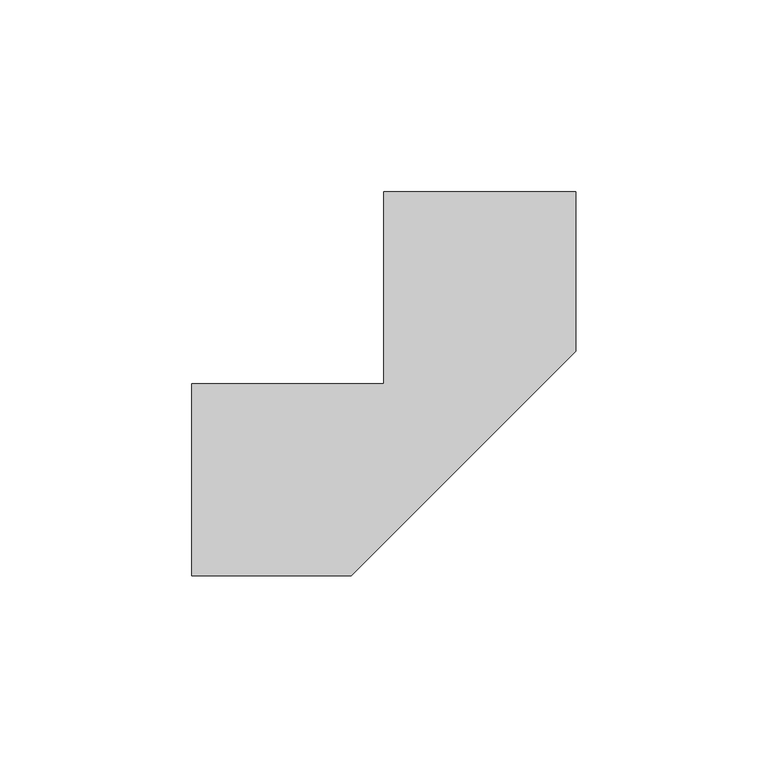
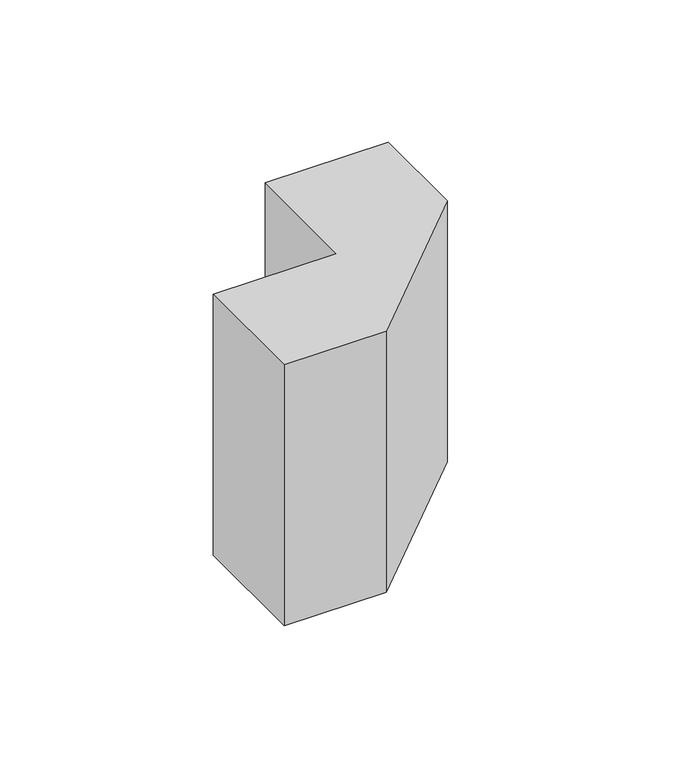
"""IFC4 building model written with IfcOpenShell, lengths in millimetres: duct fitting geometry, КНС_УголВнешний_DKC : Угол внешний."""

import ifcopenshell
import ifcopenshell.guid

model = None  # the IFC model being written
_history = None  # IfcOwnerHistory: only IFC2X3 demands one
_inside = {}  # id of a spatial element -> (the spatial element, [elements in it])
_under = {}  # id of a project, library or spatial element -> (it, [spatial elements below it])
_declared = {}  # id of a project -> (the project, [libraries it declares])
_typed = {}  # id of a type object -> (the type object, [elements of that type])
_made_of = {}  # id of a material, layer set ... -> (it, [elements and type objects made of it])


def new_model(schema):
    """Start an empty IFC model of exactly this schema.

    Asked for "IFC4X3", IfcOpenShell would pick the latest addendum, in which some entities
    have other attributes; the version numbers below select the first issue.
    IFC2X3 requires an IfcOwnerHistory on every rooted entity: one is made here for all.
    """
    global model, _history
    if schema == "IFC4X3":
        model = ifcopenshell.file(schema_version=(4, 3, 0, 0))
    else:
        model = ifcopenshell.file(schema=schema)
    _inside.clear()
    _under.clear()
    _declared.clear()
    _typed.clear()
    _made_of.clear()
    _history = None
    if model.schema == "IFC2X3":
        org = make("IfcOrganization", Name="unknown")
        user = make(
            "IfcPersonAndOrganization",
            ThePerson=make("IfcPerson", FamilyName="unknown"),
            TheOrganization=org,
        )
        app = make(
            "IfcApplication",
            ApplicationDeveloper=org,
            Version="unknown",
            ApplicationFullName="unknown",
            ApplicationIdentifier="unknown",
        )
        _history = make(
            "IfcOwnerHistory",
            OwningUser=user,
            OwningApplication=app,
            ChangeAction="ADDED",
            CreationDate=0,
        )
    return model


def make(cls, **values):
    """One entity of the class cls with the attributes given. An attribute that is None is left unset."""
    return model.create_entity(
        cls, **{name: value for name, value in values.items() if value is not None}
    )


def rooted(cls, **values):
    """An entity with a GlobalId (a new one), such as an element, a storey or a relation."""
    return make(cls, GlobalId=ifcopenshell.guid.new(), OwnerHistory=_history, **values)


def si_unit(unit_type, name, prefix=None):
    """IfcSIUnit, for example si_unit("LENGTHUNIT", "METRE", prefix="MILLI")."""
    return make("IfcSIUnit", UnitType=unit_type, Prefix=prefix, Name=name)


def assignment(units):
    """IfcUnitAssignment: the units of a project."""
    return None if units is None else make("IfcUnitAssignment", Units=units)


def point(xyz):
    """IfcCartesianPoint."""
    return None if xyz is None else make("IfcCartesianPoint", Coordinates=xyz)


def direction(xyz):
    """IfcDirection."""
    return None if xyz is None else make("IfcDirection", DirectionRatios=xyz)


def frame(location, z_axis=None, x_axis=None):
    """IfcAxis2Placement3D, a coordinate frame: its origin and axes. An axis left out is left unset."""
    return make(
        "IfcAxis2Placement3D",
        Location=point(location),
        Axis=direction(z_axis),
        RefDirection=direction(x_axis),
    )


def origin():
    """The frame at (0, 0, 0) with its axes left unset."""
    return frame((0.0, 0.0, 0.0))


def place(relative_to, where):
    """IfcLocalPlacement: puts the frame where relative to a parent placement (None: the world)."""
    return make(
        "IfcLocalPlacement", PlacementRelTo=relative_to, RelativePlacement=where
    )


def context(
    kind, dimensions, precision=None, world=None, true_north=None, identifier=None
):
    """IfcGeometricRepresentationContext, for example the 3D "Model" context."""
    return make(
        "IfcGeometricRepresentationContext",
        ContextIdentifier=identifier,
        ContextType=kind,
        CoordinateSpaceDimension=dimensions,
        Precision=precision,
        WorldCoordinateSystem=world,
        TrueNorth=true_north,
    )


def project(units=None, contexts=None):
    """IfcProject with its units and contexts."""
    return rooted(
        "IfcProject",
        Name="project",
        RepresentationContexts=contexts,
        UnitsInContext=assignment(units),
    )


def spatial(cls, under=None, at=None, **own):
    """A site, building, storey or space (cls), placed at a placement, below another one or the project."""
    s = rooted(cls, ObjectPlacement=at, **own)
    if under is not None:
        _under.setdefault(under.id(), (under, []))[1].append(s)
    return s


def polyline(points):
    """IfcPolyline through the points."""
    return make("IfcPolyline", Points=[point(p) for p in points])


def outline(outer, holes=None, kind="AREA"):
    """IfcArbitraryClosedProfileDef: a profile drawn as a closed curve; with holes, ...WithVoids."""
    if holes is None:
        return make("IfcArbitraryClosedProfileDef", ProfileType=kind, OuterCurve=outer)
    return make(
        "IfcArbitraryProfileDefWithVoids",
        ProfileType=kind,
        OuterCurve=outer,
        InnerCurves=holes,
    )


def extrude(swept, where, along, depth):
    """IfcExtrudedAreaSolid: the profile swept, set in the frame where, extruded along a direction by depth."""
    return make(
        "IfcExtrudedAreaSolid",
        SweptArea=swept,
        Position=where,
        ExtrudedDirection=direction(along),
        Depth=depth,
    )


def shape(context_of_items, identifier, shape_type, items):
    """IfcShapeRepresentation: the items that make up one representation, for example the "Body"."""
    return make(
        "IfcShapeRepresentation",
        ContextOfItems=context_of_items,
        RepresentationIdentifier=identifier,
        RepresentationType=shape_type,
        Items=items,
    )


def source(mapping_origin, context_of_items, identifier, shape_type, items):
    """IfcRepresentationMap: a shape defined once, which mapped items show again and again."""
    return make(
        "IfcRepresentationMap",
        MappingOrigin=mapping_origin,
        MappedRepresentation=shape(context_of_items, identifier, shape_type, items),
    )


def transform(
    local_origin,
    x_axis=None,
    y_axis=None,
    z_axis=None,
    scale=None,
    scale2=None,
    scale3=None,
    uniform=True,
):
    """IfcCartesianTransformationOperator3D, or its non-uniform kind. x_axis, y_axis, z_axis: its Axis1, 2, 3."""
    if uniform:
        return make(
            "IfcCartesianTransformationOperator3D",
            Axis1=direction(x_axis),
            Axis2=direction(y_axis),
            LocalOrigin=point(local_origin),
            Scale=scale,
            Axis3=direction(z_axis),
        )
    return make(
        "IfcCartesianTransformationOperator3DnonUniform",
        Axis1=direction(x_axis),
        Axis2=direction(y_axis),
        LocalOrigin=point(local_origin),
        Scale=scale,
        Axis3=direction(z_axis),
        Scale2=scale2,
        Scale3=scale3,
    )


def mapped(mapping_source, mapping_target):
    """IfcMappedItem: shows the shape of a source again, moved by a transform."""
    return make(
        "IfcMappedItem", MappingSource=mapping_source, MappingTarget=mapping_target
    )


def made_of(thing, what):
    """Note that an element or type object is made of a material, layer set ...; save() writes the relation."""
    if what is not None:
        _made_of.setdefault(what.id(), (what, []))[1].append(thing)
    return thing


def element(
    cls,
    number,
    at=None,
    inside=None,
    cuts=None,
    type_object=None,
    material=None,
    context=None,
    identifier="Body",
    shape_type=None,
    held_by="IfcProductDefinitionShape",
    body=None,
    shapes=None,
    **own,
):
    """One element of the class cls, such as IfcWall. Its Tag is "e" and its number.

    at: its placement. inside: the storey or other place that contains it. cuts: it is an
    opening in that element (IfcRelVoidsElement). A single representation is given by context,
    identifier, shape_type and body (its items); several are given by shapes. held_by: the class
    of the entity that holds the representations. save() writes the other relations.
    """
    e = rooted(cls, Tag="e%d" % number, ObjectPlacement=at, **own)
    if body is not None:
        shapes = [shape(context, identifier, shape_type, body)]
    if shapes is not None:
        e.Representation = make(held_by, Representations=shapes)
    if inside is not None:
        _inside.setdefault(inside.id(), (inside, []))[1].append(e)
    if cuts is not None:
        rooted(
            "IfcRelVoidsElement", RelatingBuildingElement=cuts, RelatedOpeningElement=e
        )
    if type_object is not None:
        _typed.setdefault(type_object.id(), (type_object, []))[1].append(e)
    return made_of(e, material)


def aggregate(whole, parts):
    """IfcRelAggregates: a whole, such as a stair, and the parts it consists of."""
    return rooted("IfcRelAggregates", RelatingObject=whole, RelatedObjects=parts)


def save(model, path):
    """Write the relations noted so far, then the file.

    IfcRelAggregates (storeys below a building ...), IfcRelContainedInSpatialStructure (elements
    in a storey), IfcRelDefinesByType, IfcRelAssociatesMaterial and IfcRelDeclares: one each for
    every whole, place, type object, material and project.
    """
    for whole, parts in _under.values():
        aggregate(whole, parts)
    for where, things in _inside.values():
        rooted(
            "IfcRelContainedInSpatialStructure",
            RelatedElements=things,
            RelatingStructure=where,
        )
    for kind, things in _typed.values():
        rooted("IfcRelDefinesByType", RelatedObjects=things, RelatingType=kind)
    for what, things in _made_of.values():
        rooted("IfcRelAssociatesMaterial", RelatedObjects=things, RelatingMaterial=what)
    for by, libraries in _declared.values():
        rooted("IfcRelDeclares", RelatingContext=by, RelatedDefinitions=libraries)
    model.write(path)


def duct_fitting_0ebe1992(model_context):
    return source(origin(), model_context, "Body", "SweptSolid", [
        extrude(outline(polyline([(-75.0, -25.0), (-75.0, 25.0), (-25.0, 25.0), (-25.0, 75.0), (25.0, 75.0), (25.0, 33.5786438), (-33.5786438, -25.0), (-75.0, -25.0)])), frame((0.0, 0.0, -56.0), z_axis=(0.0, 0.0, 1.0), x_axis=(1.0, 0.0, 0.0)), (0.0, 0.0, 1.0), 112.0),
    ])


if __name__ == "__main__":
    model = new_model("IFC4")
    model_context = context("Model", 3, world=origin())
    ifc_project = project(units=[si_unit("LENGTHUNIT", "METRE", prefix="MILLI")], contexts=[model_context])
    site = spatial("IfcSite", under=ifc_project)
    building = spatial("IfcBuilding", under=site)
    placement = place(None, origin())
    duct_fitting_shape = duct_fitting_0ebe1992(model_context)
    element("IfcDuctFitting", 1, ObjectType="КНС_УголВнешний_DKC : Угол внешний", at=placement, inside=building, context=model_context, shape_type="MappedRepresentation", body=[
        mapped(duct_fitting_shape, transform((0.0, 0.0, 0.0), x_axis=(1.0, 0.0, 0.0), y_axis=(0.0, 1.0, 0.0), z_axis=(0.0, 0.0, 1.0))),
    ])
    save(model, "model.ifc")
